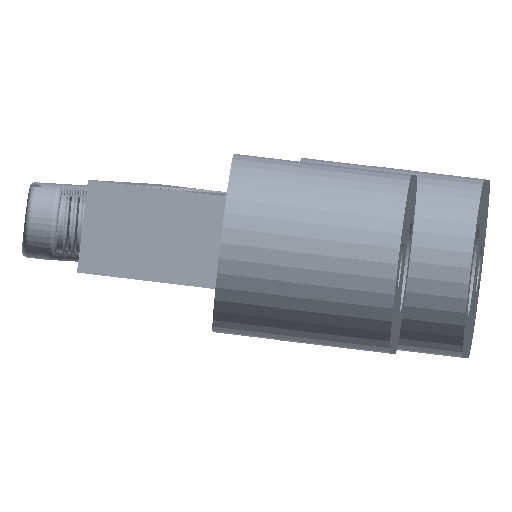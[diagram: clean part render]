
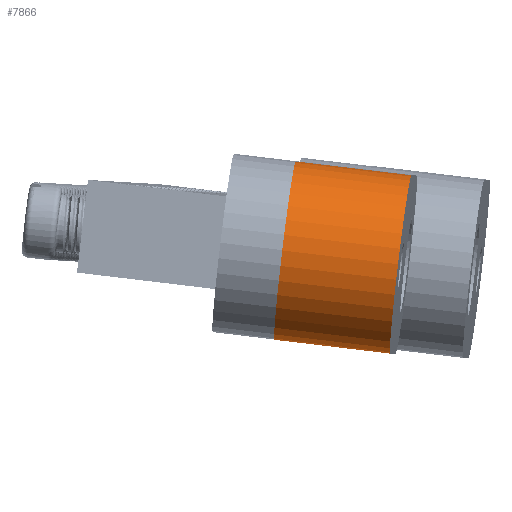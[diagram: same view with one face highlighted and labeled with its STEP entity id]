
A CAD part, left-side view. The second image highlights one B-rep face of the part: STEP entity #7866.
In plain terms, the highlighted cylindrical face has radius 7.7 mm (diameter 15.4 mm), a partial arc.
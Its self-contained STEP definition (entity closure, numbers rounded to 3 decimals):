
#284 = DIRECTION ( 'NONE',  ( 0., 0., 1. ) ) ;
#703 = CARTESIAN_POINT ( 'NONE',  ( 14., 7.7, 0. ) ) ;
#1594 = CIRCLE ( 'NONE', #7107, 7.7 ) ;
#3298 = CARTESIAN_POINT ( 'NONE',  ( 14., -7.7, 10. ) ) ;
#3358 = ORIENTED_EDGE ( 'NONE', *, *, #9496, .T. ) ;
#3744 = CARTESIAN_POINT ( 'NONE',  ( 14., -7.7, 10. ) ) ;
#4106 = VERTEX_POINT ( 'NONE', #703 ) ;
#4250 = AXIS2_PLACEMENT_3D ( 'NONE', #9425, #6644, #10803 ) ;
#4340 = CARTESIAN_POINT ( 'NONE',  ( 14., -7.7, 0. ) ) ;
#4418 = VECTOR ( 'NONE', #17022, 1000. ) ;
#4796 = CARTESIAN_POINT ( 'NONE',  ( 14., 7.7, 10. ) ) ;
#5451 = ORIENTED_EDGE ( 'NONE', *, *, #16132, .F. ) ;
#5971 = DIRECTION ( 'NONE',  ( 0., 0., -1. ) ) ;
#6344 = CYLINDRICAL_SURFACE ( 'NONE', #4250, 7.7 ) ;
#6562 = CARTESIAN_POINT ( 'NONE',  ( 14., 0., 10. ) ) ;
#6644 = DIRECTION ( 'NONE',  ( 0., 0., -1. ) ) ;
#6648 = EDGE_LOOP ( 'NONE', ( #3358, #5451, #9889, #10126 ) ) ;
#6762 = VERTEX_POINT ( 'NONE', #4340 ) ;
#7107 = AXIS2_PLACEMENT_3D ( 'NONE', #8490, #284, #9877 ) ;
#7866 = ADVANCED_FACE ( 'NONE', ( #13631 ), #6344, .T. ) ;
#7924 = DIRECTION ( 'NONE',  ( 1., 0., 0. ) ) ;
#8039 = LINE ( 'NONE', #4796, #4418 ) ;
#8490 = CARTESIAN_POINT ( 'NONE',  ( 14., 0., 0. ) ) ;
#9107 = EDGE_CURVE ( 'NONE', #15777, #6762, #14015, .T. ) ;
#9425 = CARTESIAN_POINT ( 'NONE',  ( 14., 0., 10. ) ) ;
#9496 = EDGE_CURVE ( 'NONE', #6762, #4106, #1594, .T. ) ;
#9877 = DIRECTION ( 'NONE',  ( 1., 0., 0. ) ) ;
#9889 = ORIENTED_EDGE ( 'NONE', *, *, #11295, .F. ) ;
#10126 = ORIENTED_EDGE ( 'NONE', *, *, #9107, .T. ) ;
#10803 = DIRECTION ( 'NONE',  ( -1., 0., 0. ) ) ;
#11295 = EDGE_CURVE ( 'NONE', #15777, #16635, #16311, .T. ) ;
#12321 = VECTOR ( 'NONE', #5971, 1000. ) ;
#12428 = AXIS2_PLACEMENT_3D ( 'NONE', #6562, #16143, #7924 ) ;
#12649 = CARTESIAN_POINT ( 'NONE',  ( 14., 7.7, 10. ) ) ;
#13631 = FACE_OUTER_BOUND ( 'NONE', #6648, .T. ) ;
#14015 = LINE ( 'NONE', #3298, #12321 ) ;
#15777 = VERTEX_POINT ( 'NONE', #3744 ) ;
#16132 = EDGE_CURVE ( 'NONE', #16635, #4106, #8039, .T. ) ;
#16143 = DIRECTION ( 'NONE',  ( 0., 0., 1. ) ) ;
#16311 = CIRCLE ( 'NONE', #12428, 7.7 ) ;
#16635 = VERTEX_POINT ( 'NONE', #12649 ) ;
#17022 = DIRECTION ( 'NONE',  ( 0., 0., -1. ) ) ;
